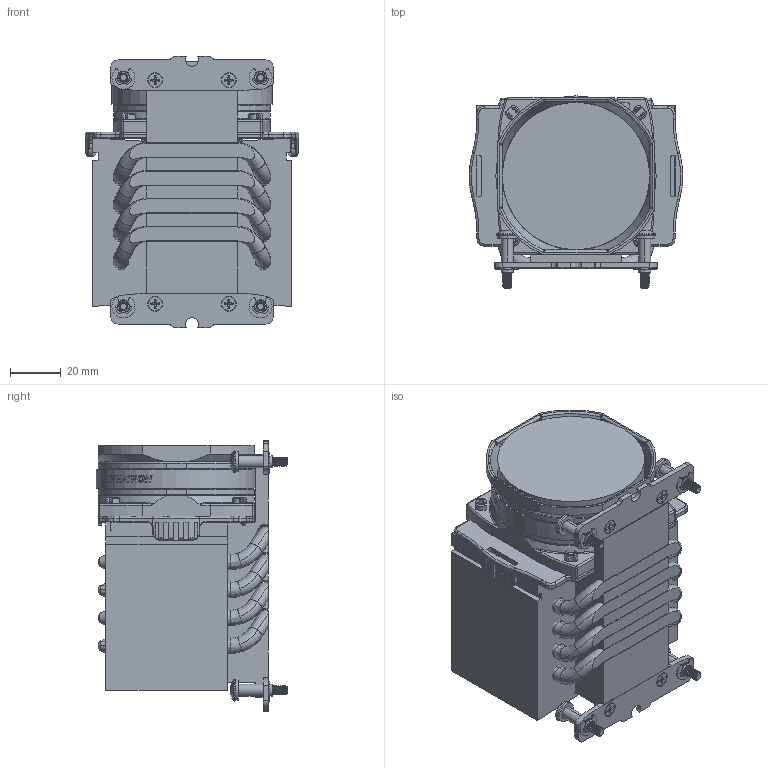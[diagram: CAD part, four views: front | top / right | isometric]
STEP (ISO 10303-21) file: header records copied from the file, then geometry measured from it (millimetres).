
FILE_DESCRIPTION((''),'2;1');
FILE_NAME('RGM3220_ME_ASM','2022-12-20T',('User'),(''),'PRO/ENGINEER BY PARAMETRIC TECHNOLOGY CORPORATION, 2017170','PRO/ENGINEER BY PARAMETRIC TECHNOLOGY CORPORATION, 2017170','');
FILE_SCHEMA(('CONFIG_CONTROL_DESIGN'));
Products named in the file (15): 428-BASE-NEW; 428-HP-NEW; 428-HP-NEW-2; 6028-BR-NEW; 6028-W____________1; TONGTOU____________1; ZZ___________________1; ZX-2992___________________1; 428-CP-NEW; 50902890; 52000030; 51900010; 50901920; __4; RGM3220_ME_ASM
Assembly tree (29 placements, depth 2):
  RGM3220_ME_ASM
    428-BASE-NEW
    428-HP-NEW  x2
    428-HP-NEW-2  x2
    6028-BR-NEW
    6028-W____________1
    TONGTOU____________1
    ZZ___________________1
    ZX-2992___________________1
    428-CP-NEW  x2
    50902890  x4
    52000030  x4
    51900010  x4
    50901920  x4
    __4
Bounding box: 84 x 75.5 x 107 mm (x, y, z)
Volume: 380963.7 mm3; surface area: 93758.9 mm2
Topology: 19 solids, 62 shells, 3078 faces, 10339 edges, 7192 vertices
Faces by surface type: plane 1214, cylinder 911, bspline 536, cone 187, torus 179, extrusion 47, sphere 4
Entity records: 135886 total; most frequent: CARTESIAN_POINT 56625, ORIENTED_EDGE 13505, DIRECTION 9868, EDGE_CURVE 7000, PRESENTATION_STYLE_ASSIGNMENT 6533, STYLED_ITEM 6533, CURVE_STYLE 6215, VERTEX_POINT 4679
